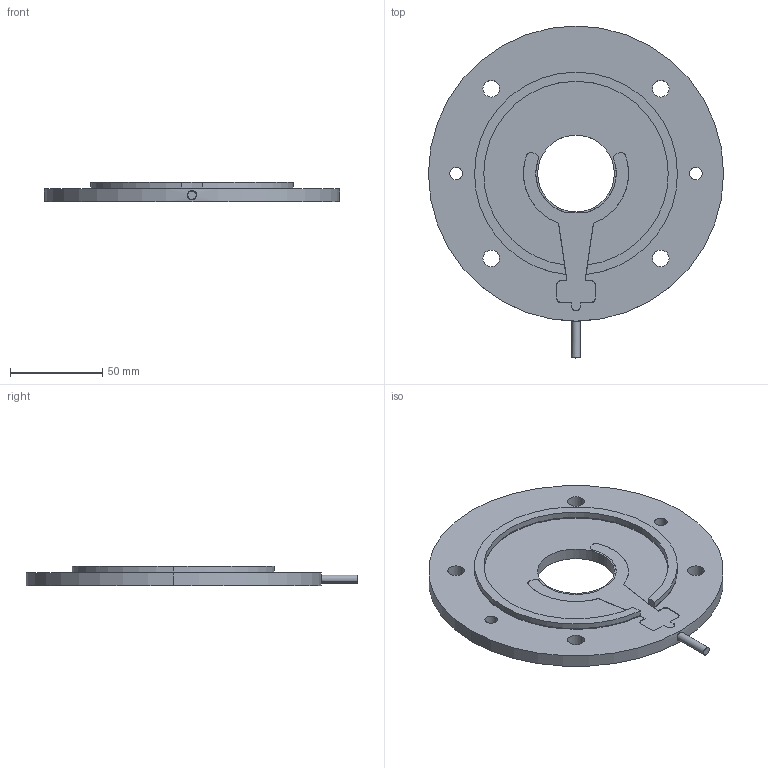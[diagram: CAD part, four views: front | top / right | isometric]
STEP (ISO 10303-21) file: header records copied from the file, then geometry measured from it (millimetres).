
FILE_DESCRIPTION (( 'STEP AP203' ), '1' );
FILE_NAME ('MRH160-7.STEP', '2024-12-16T09:36:22', ( '' ), ( '' ), 'SwSTEP 2.0', 'SolidWorks 2023', '' );
FILE_SCHEMA (( 'CONFIG_CONTROL_DESIGN' ));
Length unit declared in the file: millimetre
Products named in the file (1): MRH160-7
Bounding box: 160 x 180 x 10.5 mm (x, y, z)
Volume: 104434.1 mm3; surface area: 50222.8 mm2
Topology: 1 solids, 3 shells, 144 faces, 395 edges, 256 vertices
Faces by surface type: cylinder 76, plane 53, torus 11, cone 4
Entity records: 4866 total; most frequent: CARTESIAN_POINT 971, DIRECTION 852, ORIENTED_EDGE 782, EDGE_CURVE 391, AXIS2_PLACEMENT_3D 329, VERTEX_POINT 256, LINE 194, VECTOR 194
